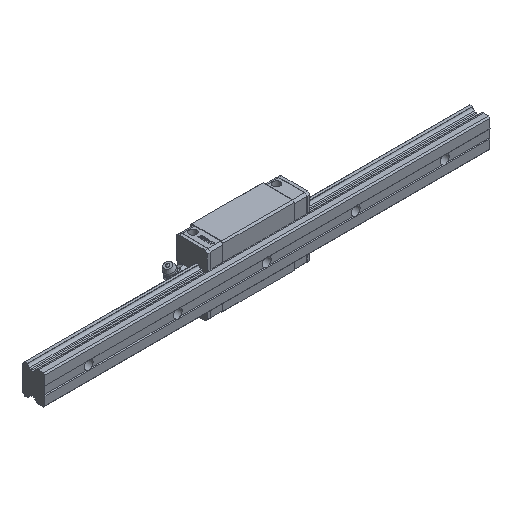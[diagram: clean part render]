
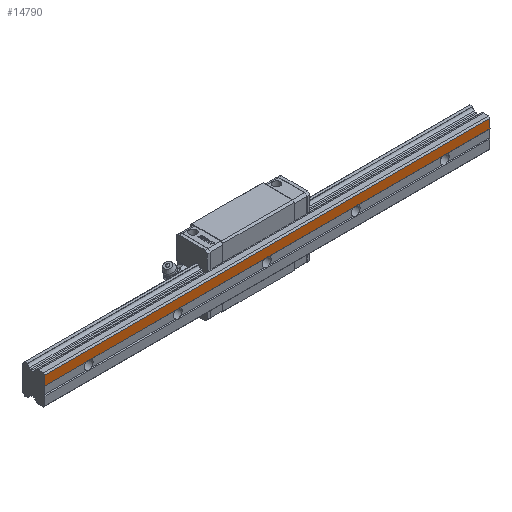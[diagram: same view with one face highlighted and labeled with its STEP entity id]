
A CAD part, isometric view. The second image highlights one B-rep face of the part: STEP entity #14790.
In plain terms, the highlighted planar face has unit normal (0, -1, 0).
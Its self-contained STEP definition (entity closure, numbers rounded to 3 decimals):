
#1148=FACE_OUTER_BOUND('',#1997,.T.);
#1997=EDGE_LOOP('',(#10431,#10432,#10433,#10434,#10435,#10436,#10437,#10438,
#10439,#10440));
#2979=LINE('',#23292,#4610);
#2980=LINE('',#23295,#4611);
#2984=LINE('',#23304,#4615);
#2985=LINE('',#23306,#4616);
#2997=LINE('',#23377,#4628);
#2998=LINE('',#23380,#4629);
#3015=LINE('',#23425,#4646);
#3031=LINE('',#23472,#4662);
#3041=LINE('',#23503,#4672);
#3042=LINE('',#23504,#4673);
#4610=VECTOR('',#17237,59.9);
#4611=VECTOR('',#17240,59.9);
#4615=VECTOR('',#17248,10.);
#4616=VECTOR('',#17251,10.);
#4628=VECTOR('',#17335,10.);
#4629=VECTOR('',#17340,10.);
#4646=VECTOR('',#17381,10.);
#4662=VECTOR('',#17419,10.);
#4672=VECTOR('',#17445,59.9);
#4673=VECTOR('',#17446,10.);
#6236=VERTEX_POINT('',#23249);
#6245=VERTEX_POINT('',#23270);
#6253=VERTEX_POINT('',#23290);
#6254=VERTEX_POINT('',#23294);
#6257=VERTEX_POINT('',#23302);
#6265=VERTEX_POINT('',#23330);
#6274=VERTEX_POINT('',#23351);
#6296=VERTEX_POINT('',#23423);
#6316=VERTEX_POINT('',#23470);
#6329=VERTEX_POINT('',#23502);
#7829=EDGE_CURVE('',#6236,#6253,#2979,.T.);
#7830=EDGE_CURVE('',#6254,#6236,#2980,.T.);
#7835=EDGE_CURVE('',#6245,#6257,#2984,.T.);
#7836=EDGE_CURVE('',#6253,#6245,#2985,.T.);
#7870=EDGE_CURVE('',#6257,#6274,#2997,.T.);
#7872=EDGE_CURVE('',#6274,#6265,#2998,.T.);
#7892=EDGE_CURVE('',#6265,#6296,#3015,.T.);
#7915=EDGE_CURVE('',#6316,#6296,#3031,.T.);
#7932=EDGE_CURVE('',#6329,#6316,#3041,.T.);
#7933=EDGE_CURVE('',#6329,#6254,#3042,.F.);
#10431=ORIENTED_EDGE('',*,*,#7830,.T.);
#10432=ORIENTED_EDGE('',*,*,#7829,.T.);
#10433=ORIENTED_EDGE('',*,*,#7836,.T.);
#10434=ORIENTED_EDGE('',*,*,#7835,.T.);
#10435=ORIENTED_EDGE('',*,*,#7870,.T.);
#10436=ORIENTED_EDGE('',*,*,#7872,.T.);
#10437=ORIENTED_EDGE('',*,*,#7892,.T.);
#10438=ORIENTED_EDGE('',*,*,#7915,.F.);
#10439=ORIENTED_EDGE('',*,*,#7932,.F.);
#10440=ORIENTED_EDGE('',*,*,#7933,.T.);
#14165=PLANE('',#15742);
#14790=ADVANCED_FACE('',(#1148),#14165,.T.);
#15742=AXIS2_PLACEMENT_3D('',#23501,#17443,#17444);
#17237=DIRECTION('',(0.,0.,-1.));
#17240=DIRECTION('',(0.,0.,-1.));
#17248=DIRECTION('',(0.,0.,-1.));
#17251=DIRECTION('',(0.,0.,-1.));
#17335=DIRECTION('',(0.,0.,-1.));
#17340=DIRECTION('',(0.,0.,-1.));
#17381=DIRECTION('',(0.,0.,-1.));
#17419=DIRECTION('',(-1.,0.,0.));
#17443=DIRECTION('center_axis',(0.,-1.,0.));
#17444=DIRECTION('ref_axis',(1.,0.,0.));
#17445=DIRECTION('',(0.,0.,-1.));
#17446=DIRECTION('',(1.,0.,0.));
#23249=CARTESIAN_POINT('',(3.,-15.5,-50.1));
#23270=CARTESIAN_POINT('',(3.,-15.5,-110.1));
#23290=CARTESIAN_POINT('',(3.,-15.5,-60.));
#23292=CARTESIAN_POINT('',(3.,-15.5,-30.));
#23294=CARTESIAN_POINT('',(3.,-15.5,-20.1));
#23295=CARTESIAN_POINT('',(3.,-15.5,-30.));
#23302=CARTESIAN_POINT('',(3.,-15.5,-170.1));
#23304=CARTESIAN_POINT('',(3.,-15.5,-60.));
#23306=CARTESIAN_POINT('',(3.,-15.5,-60.));
#23330=CARTESIAN_POINT('',(3.,-15.5,-290.1));
#23351=CARTESIAN_POINT('',(3.,-15.5,-230.1));
#23377=CARTESIAN_POINT('',(3.,-15.5,-60.));
#23380=CARTESIAN_POINT('',(3.,-15.5,-60.));
#23423=CARTESIAN_POINT('',(3.,-15.5,-320.1));
#23425=CARTESIAN_POINT('',(3.,-15.5,-60.));
#23470=CARTESIAN_POINT('',(9.,-15.5,-320.1));
#23472=CARTESIAN_POINT('',(9.,-15.5,-320.1));
#23501=CARTESIAN_POINT('Origin',(3.,-15.5,-30.));
#23502=CARTESIAN_POINT('',(9.,-15.5,-20.1));
#23503=CARTESIAN_POINT('',(9.,-15.5,100.));
#23504=CARTESIAN_POINT('',(1.5,-15.5,-20.1));
